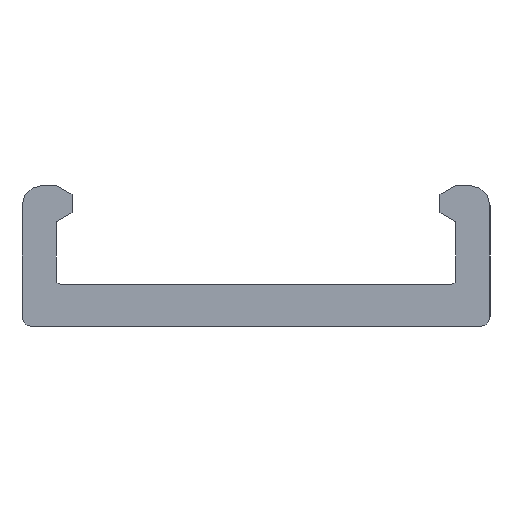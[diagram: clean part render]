
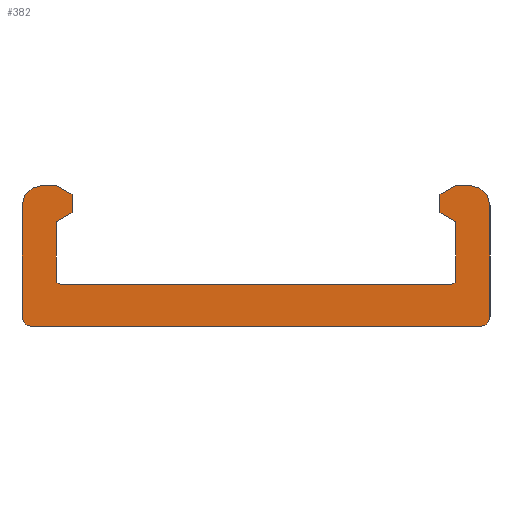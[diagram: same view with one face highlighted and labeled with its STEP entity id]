
A CAD part, left-side view. The second image highlights one B-rep face of the part: STEP entity #382.
In plain terms, the highlighted planar face has unit normal (-1, 0, 0).
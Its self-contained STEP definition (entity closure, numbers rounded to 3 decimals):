
#1 = ORIENTED_EDGE ( 'NONE', *, *, #277, .F. ) ;
#5 = AXIS2_PLACEMENT_3D ( 'NONE', #543, #29, #28 ) ;
#8 = VERTEX_POINT ( 'NONE', #606 ) ;
#14 = AXIS2_PLACEMENT_3D ( 'NONE', #210, #536, #353 ) ;
#23 = CARTESIAN_POINT ( 'NONE',  ( 0., 9.7, 2.1 ) ) ;
#24 = VERTEX_POINT ( 'NONE', #172 ) ;
#28 = DIRECTION ( 'NONE',  ( 0., 0., -1. ) ) ;
#29 = DIRECTION ( 'NONE',  ( 1., 0., 0. ) ) ;
#30 = VECTOR ( 'NONE', #111, 1000. ) ;
#33 = CARTESIAN_POINT ( 'NONE',  ( 0., 9.7, 2.3 ) ) ;
#37 = LINE ( 'NONE', #201, #286 ) ;
#38 = EDGE_CURVE ( 'NONE', #417, #8, #84, .T. ) ;
#42 = AXIS2_PLACEMENT_3D ( 'NONE', #303, #394, #530 ) ;
#46 = VECTOR ( 'NONE', #503, 1000. ) ;
#48 = ORIENTED_EDGE ( 'NONE', *, *, #138, .F. ) ;
#56 = AXIS2_PLACEMENT_3D ( 'NONE', #355, #131, #373 ) ;
#81 = ORIENTED_EDGE ( 'NONE', *, *, #318, .F. ) ;
#84 = LINE ( 'NONE', #178, #220 ) ;
#91 = VECTOR ( 'NONE', #222, 1000. ) ;
#94 = LINE ( 'NONE', #441, #590 ) ;
#99 = DIRECTION ( 'NONE',  ( 0., -1., 0. ) ) ;
#105 = CARTESIAN_POINT ( 'NONE',  ( 0., -10.6, 6. ) ) ;
#109 = EDGE_CURVE ( 'NONE', #402, #538, #502, .T. ) ;
#110 = DIRECTION ( 'NONE',  ( 0., 0., 1. ) ) ;
#111 = DIRECTION ( 'NONE',  ( 0., 0., -1. ) ) ;
#117 = CIRCLE ( 'NONE', #5, 1. ) ;
#122 = EDGE_CURVE ( 'NONE', #192, #137, #37, .T. ) ;
#126 = EDGE_CURVE ( 'NONE', #329, #240, #94, .T. ) ;
#127 = ORIENTED_EDGE ( 'NONE', *, *, #611, .F. ) ;
#128 = ORIENTED_EDGE ( 'NONE', *, *, #354, .F. ) ;
#130 = ORIENTED_EDGE ( 'NONE', *, *, #122, .F. ) ;
#131 = DIRECTION ( 'NONE',  ( 1., 0., 0. ) ) ;
#133 = LINE ( 'NONE', #504, #332 ) ;
#137 = VERTEX_POINT ( 'NONE', #297 ) ;
#138 = EDGE_CURVE ( 'NONE', #240, #145, #483, .T. ) ;
#142 = AXIS2_PLACEMENT_3D ( 'NONE', #33, #460, #547 ) ;
#145 = VERTEX_POINT ( 'NONE', #348 ) ;
#147 = CARTESIAN_POINT ( 'NONE',  ( 0., 10.6, 7. ) ) ;
#154 = DIRECTION ( 'NONE',  ( 1., 0., 0. ) ) ;
#156 = DIRECTION ( 'NONE',  ( 0., 1., 0. ) ) ;
#165 = CARTESIAN_POINT ( 'NONE',  ( 0., -10.6, 7. ) ) ;
#168 = ORIENTED_EDGE ( 'NONE', *, *, #264, .F. ) ;
#172 = CARTESIAN_POINT ( 'NONE',  ( 0., 9.7, 2.1 ) ) ;
#173 = CARTESIAN_POINT ( 'NONE',  ( 0., 9.9, 5.2 ) ) ;
#176 = DIRECTION ( 'NONE',  ( 0., 0., -1. ) ) ;
#178 = CARTESIAN_POINT ( 'NONE',  ( 0., 9.9, 5.2 ) ) ;
#181 = ORIENTED_EDGE ( 'NONE', *, *, #38, .F. ) ;
#192 = VERTEX_POINT ( 'NONE', #147 ) ;
#193 = CARTESIAN_POINT ( 'NONE',  ( 0., -9.7, 2.3 ) ) ;
#195 = ORIENTED_EDGE ( 'NONE', *, *, #109, .F. ) ;
#201 = CARTESIAN_POINT ( 'NONE',  ( 0., 10.6, 7. ) ) ;
#202 = DIRECTION ( 'NONE',  ( 0., 0., 1. ) ) ;
#210 = CARTESIAN_POINT ( 'NONE',  ( 0., -11.1, 0.5 ) ) ;
#211 = DIRECTION ( 'NONE',  ( 1., 0., 0. ) ) ;
#215 = CARTESIAN_POINT ( 'NONE',  ( 0., 11.1, 0. ) ) ;
#220 = VECTOR ( 'NONE', #176, 1000. ) ;
#221 = CARTESIAN_POINT ( 'NONE',  ( 0., -11.1, 0. ) ) ;
#222 = DIRECTION ( 'NONE',  ( 0., 0., 1. ) ) ;
#238 = EDGE_CURVE ( 'NONE', #538, #367, #575, .T. ) ;
#239 = CIRCLE ( 'NONE', #56, 0.9 ) ;
#240 = VERTEX_POINT ( 'NONE', #215 ) ;
#242 = EDGE_LOOP ( 'NONE', ( #168, #130, #477, #347, #48, #426, #127, #379, #195, #81, #514, #128, #410, #1, #562, #181 ) ) ;
#246 = VERTEX_POINT ( 'NONE', #542 ) ;
#248 = DIRECTION ( 'NONE',  ( 0., 0., -1. ) ) ;
#257 = VERTEX_POINT ( 'NONE', #267 ) ;
#264 = EDGE_CURVE ( 'NONE', #137, #417, #239, .T. ) ;
#267 = CARTESIAN_POINT ( 'NONE',  ( 0., -9.9, 2.3 ) ) ;
#275 = LINE ( 'NONE', #23, #314 ) ;
#277 = EDGE_CURVE ( 'NONE', #24, #597, #275, .T. ) ;
#285 = EDGE_CURVE ( 'NONE', #291, #192, #117, .T. ) ;
#286 = VECTOR ( 'NONE', #99, 1000. ) ;
#291 = VERTEX_POINT ( 'NONE', #360 ) ;
#297 = CARTESIAN_POINT ( 'NONE',  ( 0., 9.9, 7. ) ) ;
#298 = CARTESIAN_POINT ( 'NONE',  ( 0., -9.9, 6.1 ) ) ;
#299 = EDGE_CURVE ( 'NONE', #145, #291, #408, .T. ) ;
#303 = CARTESIAN_POINT ( 'NONE',  ( 0., 11.1, 0.5 ) ) ;
#310 = CARTESIAN_POINT ( 'NONE',  ( 0., -11.6, 0.5 ) ) ;
#314 = VECTOR ( 'NONE', #564, 1000. ) ;
#318 = EDGE_CURVE ( 'NONE', #246, #402, #561, .T. ) ;
#328 = FACE_OUTER_BOUND ( 'NONE', #242, .T. ) ;
#329 = VERTEX_POINT ( 'NONE', #221 ) ;
#331 = AXIS2_PLACEMENT_3D ( 'NONE', #298, #154, #202 ) ;
#332 = VECTOR ( 'NONE', #110, 1000. ) ;
#336 = CIRCLE ( 'NONE', #549, 0.2 ) ;
#347 = ORIENTED_EDGE ( 'NONE', *, *, #299, .F. ) ;
#348 = CARTESIAN_POINT ( 'NONE',  ( 0., 11.6, 0.5 ) ) ;
#353 = DIRECTION ( 'NONE',  ( 0., 0., 1. ) ) ;
#354 = EDGE_CURVE ( 'NONE', #257, #579, #133, .T. ) ;
#355 = CARTESIAN_POINT ( 'NONE',  ( 0., 9.9, 6.1 ) ) ;
#360 = CARTESIAN_POINT ( 'NONE',  ( 0., 11.6, 6. ) ) ;
#364 = CIRCLE ( 'NONE', #142, 0.2 ) ;
#367 = VERTEX_POINT ( 'NONE', #409 ) ;
#373 = DIRECTION ( 'NONE',  ( 0., 0., -1. ) ) ;
#379 = ORIENTED_EDGE ( 'NONE', *, *, #238, .F. ) ;
#382 = ADVANCED_FACE ( 'NONE', ( #328 ), #586, .F. ) ;
#394 = DIRECTION ( 'NONE',  ( 1., 0., 0. ) ) ;
#402 = VERTEX_POINT ( 'NONE', #505 ) ;
#407 = AXIS2_PLACEMENT_3D ( 'NONE', #105, #484, #438 ) ;
#408 = LINE ( 'NONE', #458, #91 ) ;
#409 = CARTESIAN_POINT ( 'NONE',  ( 0., -11.6, 0.5 ) ) ;
#410 = ORIENTED_EDGE ( 'NONE', *, *, #581, .F. ) ;
#416 = EDGE_CURVE ( 'NONE', #8, #24, #364, .T. ) ;
#417 = VERTEX_POINT ( 'NONE', #173 ) ;
#424 = CIRCLE ( 'NONE', #14, 0.5 ) ;
#426 = ORIENTED_EDGE ( 'NONE', *, *, #126, .F. ) ;
#432 = CARTESIAN_POINT ( 'NONE',  ( 0., -9.7, 2.1 ) ) ;
#438 = DIRECTION ( 'NONE',  ( 0., 0., 1. ) ) ;
#441 = CARTESIAN_POINT ( 'NONE',  ( 0., -11.1, 0. ) ) ;
#452 = DIRECTION ( 'NONE',  ( 0., 0., -1. ) ) ;
#458 = CARTESIAN_POINT ( 'NONE',  ( 0., 11.6, 0.5 ) ) ;
#460 = DIRECTION ( 'NONE',  ( -1., 0., 0. ) ) ;
#477 = ORIENTED_EDGE ( 'NONE', *, *, #285, .F. ) ;
#483 = CIRCLE ( 'NONE', #42, 0.5 ) ;
#484 = DIRECTION ( 'NONE',  ( 1., 0., 0. ) ) ;
#495 = CARTESIAN_POINT ( 'NONE',  ( 0., 9.9, 6.1 ) ) ;
#502 = CIRCLE ( 'NONE', #407, 1. ) ;
#503 = DIRECTION ( 'NONE',  ( 0., -1., 0. ) ) ;
#504 = CARTESIAN_POINT ( 'NONE',  ( 0., -9.9, 5.2 ) ) ;
#505 = CARTESIAN_POINT ( 'NONE',  ( 0., -10.6, 7. ) ) ;
#514 = ORIENTED_EDGE ( 'NONE', *, *, #537, .F. ) ;
#521 = CARTESIAN_POINT ( 'NONE',  ( 0., -9.9, 5.2 ) ) ;
#524 = DIRECTION ( 'NONE',  ( -1., 0., 0. ) ) ;
#525 = AXIS2_PLACEMENT_3D ( 'NONE', #495, #211, #452 ) ;
#530 = DIRECTION ( 'NONE',  ( 0., 0., -1. ) ) ;
#536 = DIRECTION ( 'NONE',  ( 1., 0., 0. ) ) ;
#537 = EDGE_CURVE ( 'NONE', #579, #246, #566, .T. ) ;
#538 = VERTEX_POINT ( 'NONE', #567 ) ;
#542 = CARTESIAN_POINT ( 'NONE',  ( 0., -9.9, 7. ) ) ;
#543 = CARTESIAN_POINT ( 'NONE',  ( 0., 10.6, 6. ) ) ;
#547 = DIRECTION ( 'NONE',  ( 0., 0., -1. ) ) ;
#549 = AXIS2_PLACEMENT_3D ( 'NONE', #193, #524, #248 ) ;
#561 = LINE ( 'NONE', #165, #46 ) ;
#562 = ORIENTED_EDGE ( 'NONE', *, *, #416, .F. ) ;
#564 = DIRECTION ( 'NONE',  ( 0., -1., 0. ) ) ;
#566 = CIRCLE ( 'NONE', #331, 0.9 ) ;
#567 = CARTESIAN_POINT ( 'NONE',  ( 0., -11.6, 6. ) ) ;
#575 = LINE ( 'NONE', #310, #30 ) ;
#579 = VERTEX_POINT ( 'NONE', #521 ) ;
#581 = EDGE_CURVE ( 'NONE', #597, #257, #336, .T. ) ;
#586 = PLANE ( 'NONE',  #525 ) ;
#590 = VECTOR ( 'NONE', #156, 1000. ) ;
#597 = VERTEX_POINT ( 'NONE', #432 ) ;
#606 = CARTESIAN_POINT ( 'NONE',  ( 0., 9.9, 2.3 ) ) ;
#611 = EDGE_CURVE ( 'NONE', #367, #329, #424, .T. ) ;
